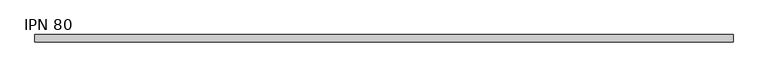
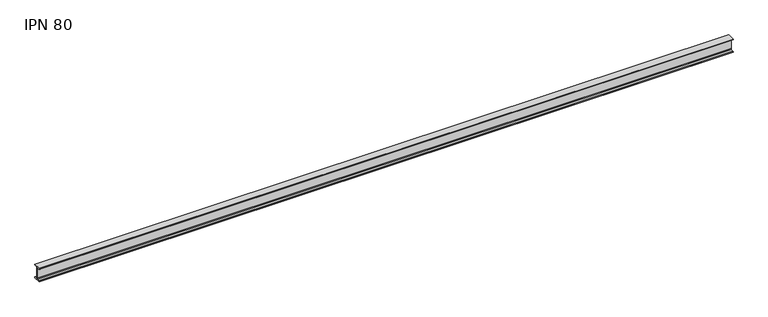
"""IFC4 building model written with IfcOpenShell, lengths in millimetres: beam geometry, IPN - Secciones en I con alas cónicas : IPN 80."""

from ifc_helpers import new_model, si_unit, point, frame, frame_2d, origin, place, context, project, spatial, polyline, circle_curve, trimmed, segment, composite_curve, outline, extrude, source, transform, mapped, element, save


def ipn_80_c00870bf(model_context):
    return source(origin(), model_context, "Body", "SweptSolid", [
        extrude(outline(composite_curve([segment(polyline([(21.0, 40.0), (21.0, 37.5704306)]), True, "CONTINUOUS"), segment(trimmed(circle_curve(frame_2d((18.7, 37.5704306)), 2.3), [point((21.0, 37.5704306))], [point((19.01889, 35.2926446))], False, "CARTESIAN"), True, "CONTINUOUS"), segment(polyline([(19.01889, 35.2926446), (5.3092734, 33.3732983)]), True, "CONTINUOUS"), segment(trimmed(circle_curve(frame_2d((5.85, 29.5109655)), 3.9), [point((5.3092734, 33.3732983))], [point((1.95, 29.5109655))], True, "CARTESIAN"), True, "CONTINUOUS"), segment(polyline([(1.95, 29.5109655), (1.95, -29.5109655)]), True, "CONTINUOUS"), segment(trimmed(circle_curve(frame_2d((5.85, -29.5109655)), 3.9), [point((1.95, -29.5109655))], [point((5.3092734, -33.3732983))], True, "CARTESIAN"), True, "CONTINUOUS"), segment(polyline([(5.3092734, -33.3732983), (19.01889, -35.2926446)]), True, "CONTINUOUS"), segment(trimmed(circle_curve(frame_2d((18.7, -37.5704306)), 2.3), [point((19.01889, -35.2926446))], [point((21.0, -37.5704306))], False, "CARTESIAN"), True, "CONTINUOUS"), segment(polyline([(21.0, -37.5704306), (21.0, -40.0), (-21.0, -40.0), (-21.0, -37.5704306)]), True, "CONTINUOUS"), segment(trimmed(circle_curve(frame_2d((-18.7, -37.5704306)), 2.3), [point((-21.0, -37.5704306))], [point((-19.01889, -35.2926446))], False, "CARTESIAN"), True, "CONTINUOUS"), segment(polyline([(-19.01889, -35.2926446), (-5.3092734, -33.3732983)]), True, "CONTINUOUS"), segment(trimmed(circle_curve(frame_2d((-5.85, -29.5109655)), 3.9), [point((-5.3092734, -33.3732983))], [point((-1.95, -29.5109655))], True, "CARTESIAN"), True, "CONTINUOUS"), segment(polyline([(-1.95, -29.5109655), (-1.95, 29.5109655)]), True, "CONTINUOUS"), segment(trimmed(circle_curve(frame_2d((-5.85, 29.5109655)), 3.9), [point((-1.95, 29.5109655))], [point((-5.3092734, 33.3732983))], True, "CARTESIAN"), True, "CONTINUOUS"), segment(polyline([(-5.3092734, 33.3732983), (-19.01889, 35.2926446)]), True, "CONTINUOUS"), segment(trimmed(circle_curve(frame_2d((-18.7, 37.5704306)), 2.3), [point((-19.01889, 35.2926446))], [point((-21.0, 37.5704306))], False, "CARTESIAN"), True, "CONTINUOUS"), segment(polyline([(-21.0, 37.5704306), (-21.0, 40.0), (21.0, 40.0)]), True, "CONTINUOUS")], self_intersect=False)), frame((-2233.85, 0.0, 0.0), z_axis=(1.0, 0.0, 0.0), x_axis=(0.0, 1.0, 0.0)), (0.0, 0.0, 1.0), 3947.8923139),
    ])


if __name__ == "__main__":
    model = new_model("IFC4")
    model_context = context("Model", 3, world=origin())
    ifc_project = project(units=[si_unit("LENGTHUNIT", "METRE", prefix="MILLI")], contexts=[model_context])
    site = spatial("IfcSite", under=ifc_project)
    building = spatial("IfcBuilding", under=site)
    placement = place(None, origin())
    ipn_80_shape = ipn_80_c00870bf(model_context)
    element("IfcBeam", 1, ObjectType="IPN - Secciones en I con alas cónicas : IPN 80", at=placement, inside=building, context=model_context, shape_type="MappedRepresentation", body=[
        mapped(ipn_80_shape, transform((0.0, 0.0, 0.0), x_axis=(1.0, 0.0, 0.0), y_axis=(0.0, 1.0, 0.0), z_axis=(0.0, 0.0, 1.0))),
    ])
    save(model, "model.ifc")
